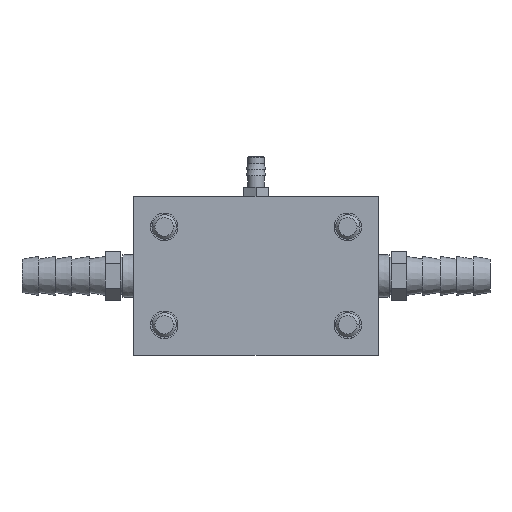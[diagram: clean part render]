
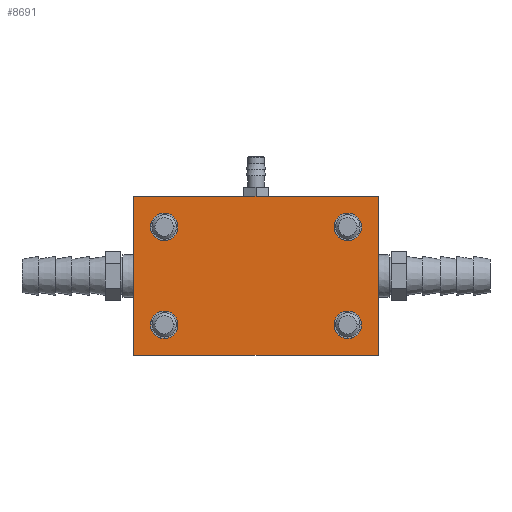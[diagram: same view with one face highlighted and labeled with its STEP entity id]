
A CAD part, left-side view. The second image highlights one B-rep face of the part: STEP entity #8691.
In plain terms, the highlighted planar face has unit normal (-1, 0, 0).
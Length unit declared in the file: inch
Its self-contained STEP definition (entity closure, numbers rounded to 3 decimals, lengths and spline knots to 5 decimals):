
#8429=CARTESIAN_POINT('',(-2.75,-0.9375,-0.5));
#8430=DIRECTION('',(1.,0.,0.));
#8431=DIRECTION('',(0.,-1.,0.));
#8432=AXIS2_PLACEMENT_3D('',#8429,#8430,#8431);
#8434=CARTESIAN_POINT('',(-2.75,-0.9375,-0.5));
#8435=DIRECTION('',(1.,0.,0.));
#8436=DIRECTION('',(0.,1.,0.));
#8437=AXIS2_PLACEMENT_3D('',#8434,#8435,#8436);
#8439=CARTESIAN_POINT('',(-2.75,0.9375,-0.5));
#8440=DIRECTION('',(1.,0.,0.));
#8441=DIRECTION('',(0.,-1.,0.));
#8442=AXIS2_PLACEMENT_3D('',#8439,#8440,#8441);
#8444=CARTESIAN_POINT('',(-2.75,0.9375,-0.5));
#8445=DIRECTION('',(1.,0.,0.));
#8446=DIRECTION('',(0.,1.,0.));
#8447=AXIS2_PLACEMENT_3D('',#8444,#8445,#8446);
#8449=CARTESIAN_POINT('',(-2.75,0.9375,0.5));
#8450=DIRECTION('',(1.,0.,0.));
#8451=DIRECTION('',(0.,-1.,0.));
#8452=AXIS2_PLACEMENT_3D('',#8449,#8450,#8451);
#8454=CARTESIAN_POINT('',(-2.75,0.9375,0.5));
#8455=DIRECTION('',(1.,0.,0.));
#8456=DIRECTION('',(0.,1.,0.));
#8457=AXIS2_PLACEMENT_3D('',#8454,#8455,#8456);
#8459=CARTESIAN_POINT('',(-2.75,-0.9375,0.5));
#8460=DIRECTION('',(1.,0.,0.));
#8461=DIRECTION('',(0.,-1.,0.));
#8462=AXIS2_PLACEMENT_3D('',#8459,#8460,#8461);
#8464=CARTESIAN_POINT('',(-2.75,-0.9375,0.5));
#8465=DIRECTION('',(1.,0.,0.));
#8466=DIRECTION('',(0.,1.,0.));
#8467=AXIS2_PLACEMENT_3D('',#8464,#8465,#8466);
#8561=DIRECTION('',(0.,0.,-1.));
#8562=VECTOR('',#8561,1.625);
#8563=CARTESIAN_POINT('',(-2.75,-1.25,0.8125));
#8564=LINE('',#8563,#8562);
#8569=DIRECTION('',(0.,1.,0.));
#8570=VECTOR('',#8569,2.5);
#8571=CARTESIAN_POINT('',(-2.75,-1.25,-0.8125));
#8572=LINE('',#8571,#8570);
#8573=DIRECTION('',(0.,0.,1.));
#8574=VECTOR('',#8573,1.625);
#8575=CARTESIAN_POINT('',(-2.75,1.25,-0.8125));
#8576=LINE('',#8575,#8574);
#8581=DIRECTION('',(0.,-1.,0.));
#8582=VECTOR('',#8581,2.5);
#8583=CARTESIAN_POINT('',(-2.75,1.25,0.8125));
#8584=LINE('',#8583,#8582);
#8593=CARTESIAN_POINT('',(-2.75,-1.25,-0.8125));
#8594=CARTESIAN_POINT('',(-2.75,1.25,-0.8125));
#8595=VERTEX_POINT('',#8593);
#8596=VERTEX_POINT('',#8594);
#8599=CARTESIAN_POINT('',(-2.75,-1.25,0.8125));
#8600=VERTEX_POINT('',#8599);
#8601=CARTESIAN_POINT('',(-2.75,1.25,0.8125));
#8602=VERTEX_POINT('',#8601);
#8605=CARTESIAN_POINT('',(-2.75,1.07813,0.5));
#8607=VERTEX_POINT('',#8605);
#8609=CARTESIAN_POINT('',(-2.75,0.79688,0.5));
#8611=VERTEX_POINT('',#8609);
#8613=CARTESIAN_POINT('',(-2.75,-0.79688,0.5));
#8615=VERTEX_POINT('',#8613);
#8617=CARTESIAN_POINT('',(-2.75,-1.07813,0.5));
#8619=VERTEX_POINT('',#8617);
#8621=CARTESIAN_POINT('',(-2.75,1.07813,-0.5));
#8623=VERTEX_POINT('',#8621);
#8625=CARTESIAN_POINT('',(-2.75,0.79688,-0.5));
#8627=VERTEX_POINT('',#8625);
#8629=CARTESIAN_POINT('',(-2.75,-0.79688,-0.5));
#8631=VERTEX_POINT('',#8629);
#8633=CARTESIAN_POINT('',(-2.75,-1.07813,-0.5));
#8635=VERTEX_POINT('',#8633);
#8653=CARTESIAN_POINT('',(-2.75,0.,0.));
#8654=DIRECTION('',(1.,0.,0.));
#8655=DIRECTION('',(0.,-1.,0.));
#8656=AXIS2_PLACEMENT_3D('',#8653,#8654,#8655);
#8657=PLANE('',#8656);
#8659=ORIENTED_EDGE('',*,*,#8658,.T.);
#8661=ORIENTED_EDGE('',*,*,#8660,.T.);
#8663=ORIENTED_EDGE('',*,*,#8662,.T.);
#8665=ORIENTED_EDGE('',*,*,#8664,.T.);
#8666=EDGE_LOOP('',(#8659,#8661,#8663,#8665));
#8667=FACE_OUTER_BOUND('',#8666,.F.);
#8669=ORIENTED_EDGE('',*,*,#8668,.F.);
#8671=ORIENTED_EDGE('',*,*,#8670,.F.);
#8672=EDGE_LOOP('',(#8669,#8671));
#8673=FACE_BOUND('',#8672,.F.);
#8674=ORIENTED_EDGE('',*,*,#8642,.F.);
#8676=ORIENTED_EDGE('',*,*,#8675,.F.);
#8677=EDGE_LOOP('',(#8674,#8676));
#8678=FACE_BOUND('',#8677,.F.);
#8680=ORIENTED_EDGE('',*,*,#8679,.F.);
#8682=ORIENTED_EDGE('',*,*,#8681,.F.);
#8683=EDGE_LOOP('',(#8680,#8682));
#8684=FACE_BOUND('',#8683,.F.);
#8686=ORIENTED_EDGE('',*,*,#8685,.F.);
#8688=ORIENTED_EDGE('',*,*,#8687,.F.);
#8689=EDGE_LOOP('',(#8686,#8688));
#8690=FACE_BOUND('',#8689,.F.);
#8433=CIRCLE('',#8432,0.14063);
#8438=CIRCLE('',#8437,0.14063);
#8443=CIRCLE('',#8442,0.14063);
#8448=CIRCLE('',#8447,0.14063);
#8453=CIRCLE('',#8452,0.14063);
#8458=CIRCLE('',#8457,0.14063);
#8463=CIRCLE('',#8462,0.14063);
#8468=CIRCLE('',#8467,0.14063);
#8642=EDGE_CURVE('',#8611,#8607,#8453,.T.);
#8658=EDGE_CURVE('',#8595,#8596,#8572,.T.);
#8660=EDGE_CURVE('',#8596,#8602,#8576,.T.);
#8662=EDGE_CURVE('',#8602,#8600,#8584,.T.);
#8664=EDGE_CURVE('',#8600,#8595,#8564,.T.);
#8668=EDGE_CURVE('',#8627,#8623,#8443,.T.);
#8670=EDGE_CURVE('',#8623,#8627,#8448,.T.);
#8675=EDGE_CURVE('',#8607,#8611,#8458,.T.);
#8679=EDGE_CURVE('',#8619,#8615,#8463,.T.);
#8681=EDGE_CURVE('',#8615,#8619,#8468,.T.);
#8685=EDGE_CURVE('',#8635,#8631,#8433,.T.);
#8687=EDGE_CURVE('',#8631,#8635,#8438,.T.);
#8691=ADVANCED_FACE('',(#8667,#8673,#8678,#8684,#8690),#8657,.F.);
